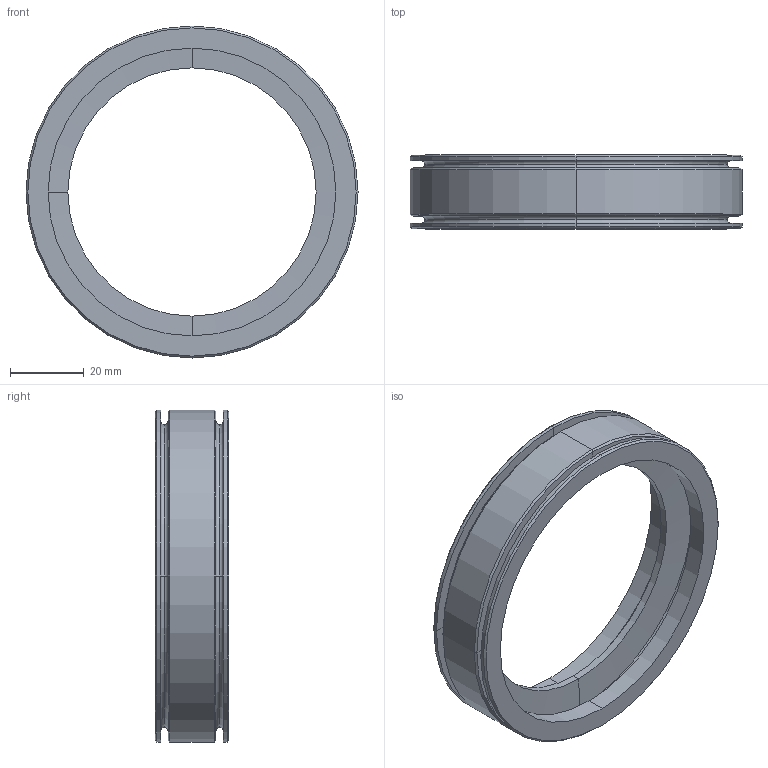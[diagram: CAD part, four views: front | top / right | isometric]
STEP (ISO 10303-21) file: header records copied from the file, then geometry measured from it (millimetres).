
FILE_DESCRIPTION (( 'STEP AP214' ), '1' );
FILE_NAME ('P-01006 - sink mount gasket - v2.1.4.STEP', '2026-06-12T21:55:36', ( '' ), ( '' ), 'SwSTEP 2.0', 'SolidWorks 2023', '' );
FILE_SCHEMA (( 'AUTOMOTIVE_DESIGN' ));
Length unit declared in the file: inch
Products named in the file (1): P-01006 - sink mount gasket - v2.1.4
Bounding box: 90 x 20 x 90 mm (x, y, z)
Volume: 22708.8 mm3; surface area: 23649.8 mm2
Topology: 1 solids, 1 shells, 56 faces, 123 edges, 69 vertices
Faces by surface type: cylinder 18, cone 14, plane 14, torus 10
Entity records: 1565 total; most frequent: DIRECTION 316, CARTESIAN_POINT 249, ORIENTED_EDGE 246, AXIS2_PLACEMENT_3D 136, EDGE_CURVE 123, CIRCLE 79, VERTEX_POINT 69, EDGE_LOOP 58
